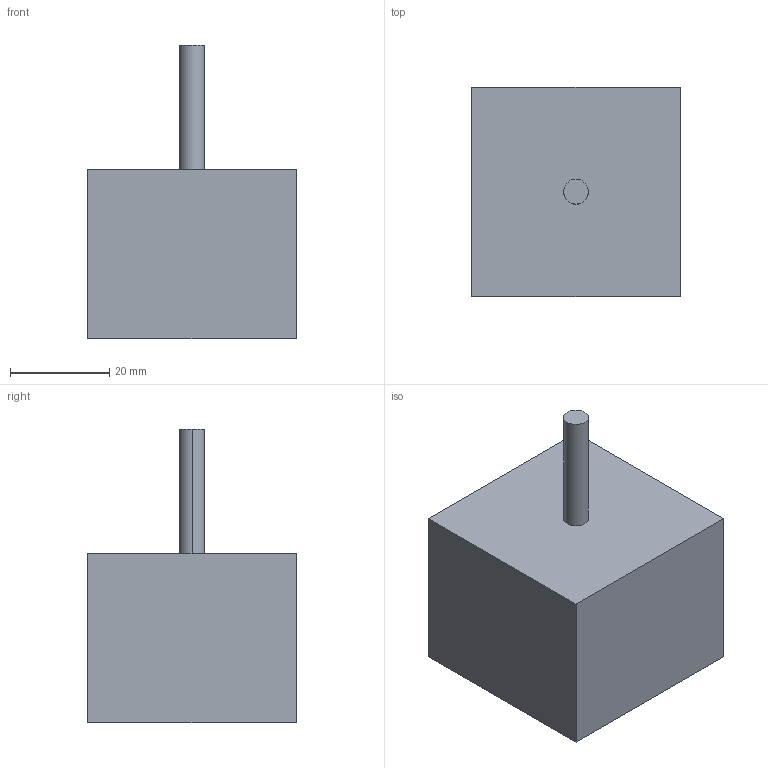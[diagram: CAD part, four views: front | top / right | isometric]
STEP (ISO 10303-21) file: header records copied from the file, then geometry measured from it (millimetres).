
FILE_DESCRIPTION (( 'STEP AP203' ), '1' );
FILE_NAME ('04_Dong_co_THAM_KHAO.STEP', '2026-11-13T15:49:52', ( '' ), ( '' ), 'SwSTEP 2.0', 'SolidWorks 2026', '' );
FILE_SCHEMA (( 'CONFIG_CONTROL_DESIGN' ));
Length unit declared in the file: metre
Products named in the file (1): 04_Dong_co_THAM_KHAO
Bounding box: 42 x 42 x 59 mm (x, y, z)
Volume: 60466.9 mm3; surface area: 9632.7 mm2
Topology: 1 solids, 1 shells, 9 faces, 18 edges, 12 vertices
Faces by surface type: plane 7, cylinder 2
Entity records: 313 total; most frequent: DIRECTION 42, CARTESIAN_POINT 40, ORIENTED_EDGE 36, EDGE_CURVE 18, VECTOR 14, AXIS2_PLACEMENT_3D 14, LINE 14, VERTEX_POINT 12
